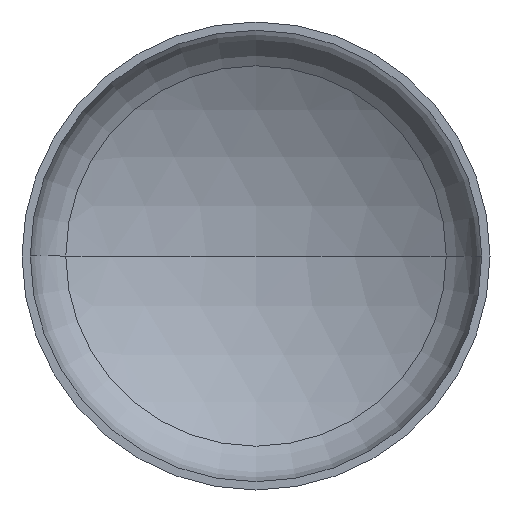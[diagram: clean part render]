
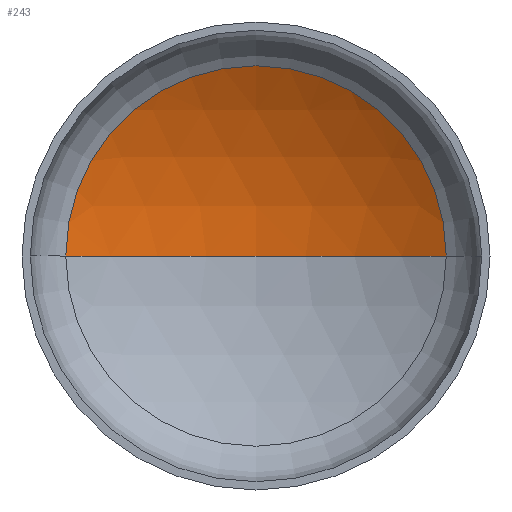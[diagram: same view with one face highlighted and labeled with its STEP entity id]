
A CAD part, front view. The second image highlights one B-rep face of the part: STEP entity #243.
In plain terms, the highlighted spherical face has radius 2880 mm.
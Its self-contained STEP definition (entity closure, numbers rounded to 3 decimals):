
#4 = AXIS2_PLACEMENT_3D ( 'NONE', #382, #52, #238 ) ;
#7 = AXIS2_PLACEMENT_3D ( 'NONE', #102, #384, #310 ) ;
#8 = VERTEX_POINT ( 'NONE', #257 ) ;
#16 = AXIS2_PLACEMENT_3D ( 'NONE', #133, #143, #66 ) ;
#17 = CARTESIAN_POINT ( 'NONE',  ( 0., -1882.714, 0. ) ) ;
#24 = AXIS2_PLACEMENT_3D ( 'NONE', #17, #286, #338 ) ;
#25 = EDGE_LOOP ( 'NONE', ( #147, #104, #85 ) ) ;
#40 = SPHERICAL_SURFACE ( 'NONE', #24, 2880. ) ;
#52 = DIRECTION ( 'NONE',  ( 0., 0., -1. ) ) ;
#66 = DIRECTION ( 'NONE',  ( 1., 0., 0. ) ) ;
#85 = ORIENTED_EDGE ( 'NONE', *, *, #357, .T. ) ;
#87 = VERTEX_POINT ( 'NONE', #349 ) ;
#102 = CARTESIAN_POINT ( 'NONE',  ( 0., 598.067, 0. ) ) ;
#104 = ORIENTED_EDGE ( 'NONE', *, *, #358, .T. ) ;
#133 = CARTESIAN_POINT ( 'NONE',  ( 0., -1882.714, 0. ) ) ;
#143 = DIRECTION ( 'NONE',  ( 0., 0., 1. ) ) ;
#147 = ORIENTED_EDGE ( 'NONE', *, *, #347, .F. ) ;
#160 = VERTEX_POINT ( 'NONE', #185 ) ;
#185 = CARTESIAN_POINT ( 'NONE',  ( 1462.916, 598.067, 0. ) ) ;
#200 = CIRCLE ( 'NONE', #7, 1462.916 ) ;
#210 = CIRCLE ( 'NONE', #16, 2880. ) ;
#238 = DIRECTION ( 'NONE',  ( -1., 0., 0. ) ) ;
#243 = ADVANCED_FACE ( 'NONE', ( #285 ), #40, .F. ) ;
#257 = CARTESIAN_POINT ( 'NONE',  ( -1462.916, 598.067, 0. ) ) ;
#263 = CIRCLE ( 'NONE', #4, 2880. ) ;
#285 = FACE_OUTER_BOUND ( 'NONE', #25, .T. ) ;
#286 = DIRECTION ( 'NONE',  ( 0., 0., -1. ) ) ;
#310 = DIRECTION ( 'NONE',  ( 1., 0., 0. ) ) ;
#338 = DIRECTION ( 'NONE',  ( -1., 0., 0. ) ) ;
#347 = EDGE_CURVE ( 'NONE', #87, #8, #210, .T. ) ;
#349 = CARTESIAN_POINT ( 'NONE',  ( 0., 997.286, 0. ) ) ;
#357 = EDGE_CURVE ( 'NONE', #160, #8, #200, .T. ) ;
#358 = EDGE_CURVE ( 'NONE', #87, #160, #263, .T. ) ;
#382 = CARTESIAN_POINT ( 'NONE',  ( 0., -1882.714, 0. ) ) ;
#384 = DIRECTION ( 'NONE',  ( 0., -1., 0. ) ) ;
